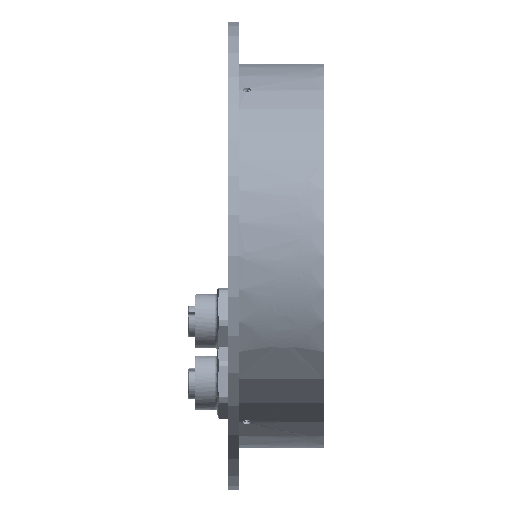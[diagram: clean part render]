
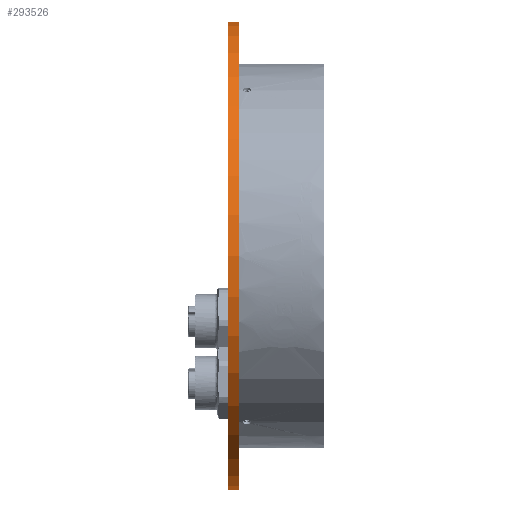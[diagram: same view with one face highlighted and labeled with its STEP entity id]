
A CAD part, front view. The second image highlights one B-rep face of the part: STEP entity #293526.
In plain terms, the highlighted cylindrical face has radius 61 mm (diameter 122 mm), a partial arc.
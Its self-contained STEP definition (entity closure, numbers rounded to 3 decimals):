
#4145 = EDGE_CURVE ( 'NONE', #161129, #103159, #35909, .T. ) ;
#16425 = AXIS2_PLACEMENT_3D ( 'NONE', #36924, #132535, #181187 ) ;
#26028 = ORIENTED_EDGE ( 'NONE', *, *, #216694, .T. ) ;
#32039 = CARTESIAN_POINT ( 'NONE',  ( 0., 0., 61. ) ) ;
#35909 = CIRCLE ( 'NONE', #16425, 61. ) ;
#36924 = CARTESIAN_POINT ( 'NONE',  ( 0., 0., 0. ) ) ;
#49809 = CARTESIAN_POINT ( 'NONE',  ( -3., 0., 0. ) ) ;
#58716 = AXIS2_PLACEMENT_3D ( 'NONE', #121786, #214425, #164249 ) ;
#58728 = VERTEX_POINT ( 'NONE', #304150 ) ;
#64381 = CARTESIAN_POINT ( 'NONE',  ( 0., 0., -61. ) ) ;
#64725 = CARTESIAN_POINT ( 'NONE',  ( 63.419, 0., 61. ) ) ;
#67460 = ORIENTED_EDGE ( 'NONE', *, *, #4145, .F. ) ;
#70714 = DIRECTION ( 'NONE',  ( 1., 0., 0. ) ) ;
#91332 = LINE ( 'NONE', #64725, #134254 ) ;
#103159 = VERTEX_POINT ( 'NONE', #64381 ) ;
#109440 = CIRCLE ( 'NONE', #143876, 61. ) ;
#116370 = DIRECTION ( 'NONE',  ( 1., 0., 0. ) ) ;
#121786 = CARTESIAN_POINT ( 'NONE',  ( 63.419, 0., 0. ) ) ;
#124975 = DIRECTION ( 'NONE',  ( 1., 0., 0. ) ) ;
#127903 = CARTESIAN_POINT ( 'NONE',  ( -3., 0., 61. ) ) ;
#132535 = DIRECTION ( 'NONE',  ( 1., 0., 0. ) ) ;
#134254 = VECTOR ( 'NONE', #116370, 1000. ) ;
#136892 = ORIENTED_EDGE ( 'NONE', *, *, #177894, .F. ) ;
#143876 = AXIS2_PLACEMENT_3D ( 'NONE', #49809, #124975, #170532 ) ;
#144402 = CARTESIAN_POINT ( 'NONE',  ( 63.419, 0., -61. ) ) ;
#159025 = VERTEX_POINT ( 'NONE', #127903 ) ;
#161129 = VERTEX_POINT ( 'NONE', #32039 ) ;
#164249 = DIRECTION ( 'NONE',  ( 0., 0., -1. ) ) ;
#170532 = DIRECTION ( 'NONE',  ( 0., 0., -1. ) ) ;
#177894 = EDGE_CURVE ( 'NONE', #159025, #161129, #91332, .T. ) ;
#179334 = EDGE_CURVE ( 'NONE', #159025, #58728, #109440, .T. ) ;
#181187 = DIRECTION ( 'NONE',  ( 0., 0., -1. ) ) ;
#198774 = ORIENTED_EDGE ( 'NONE', *, *, #179334, .T. ) ;
#213475 = LINE ( 'NONE', #144402, #238968 ) ;
#214425 = DIRECTION ( 'NONE',  ( 1., 0., 0. ) ) ;
#216694 = EDGE_CURVE ( 'NONE', #58728, #103159, #213475, .T. ) ;
#237983 = CYLINDRICAL_SURFACE ( 'NONE', #58716, 61. ) ;
#238968 = VECTOR ( 'NONE', #70714, 1000. ) ;
#243760 = EDGE_LOOP ( 'NONE', ( #136892, #198774, #26028, #67460 ) ) ;
#261497 = FACE_OUTER_BOUND ( 'NONE', #243760, .T. ) ;
#293526 = ADVANCED_FACE ( 'NONE', ( #261497 ), #237983, .T. ) ;
#304150 = CARTESIAN_POINT ( 'NONE',  ( -3., 0., -61. ) ) ;
